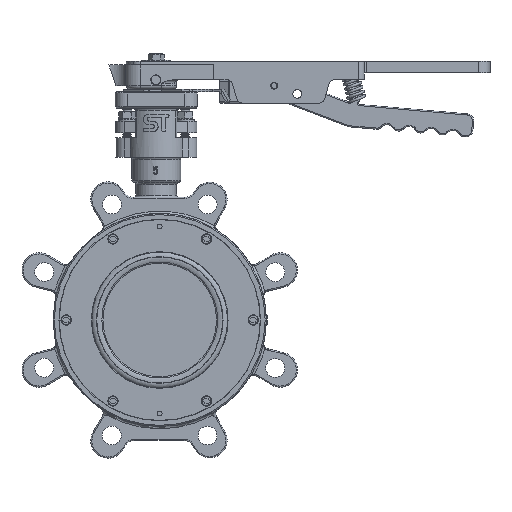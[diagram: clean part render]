
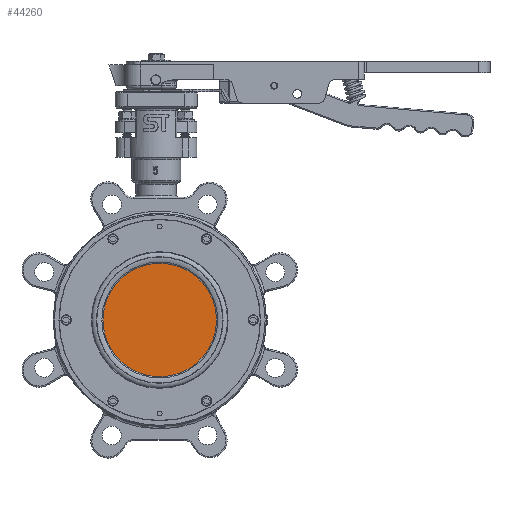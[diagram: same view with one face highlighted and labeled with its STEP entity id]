
A CAD part, front view. The second image highlights one B-rep face of the part: STEP entity #44260.
In plain terms, the highlighted planar face has unit normal (0, -1, 0).
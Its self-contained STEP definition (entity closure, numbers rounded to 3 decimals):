
#44260 = ADVANCED_FACE('',(#44261),#44274,.F.);
#44261 = FACE_BOUND('',#44262,.T.);
#44262 = EDGE_LOOP('',(#44263));
#44263 = ORIENTED_EDGE('',*,*,#44264,.F.);
#44264 = EDGE_CURVE('',#44265,#44265,#44267,.T.);
#44265 = VERTEX_POINT('',#44266);
#44266 = CARTESIAN_POINT('',(269.094,0.729,211.62));
#44267 = SURFACE_CURVE('',#44268,(#44273),.PCURVE_S1.);
#44268 = CIRCLE('',#44269,1.931);
#44269 = AXIS2_PLACEMENT_3D('',#44270,#44271,#44272);
#44270 = CARTESIAN_POINT('',(271.025,0.729,211.62));
#44271 = DIRECTION('',(0.,1.,0.));
#44272 = DIRECTION('',(-1.,0.,0.));
#44273 = PCURVE('',#44274,#44279);
#44274 = PLANE('',#44275);
#44275 = AXIS2_PLACEMENT_3D('',#44276,#44277,#44278);
#44276 = CARTESIAN_POINT('',(271.025,0.729,211.62));
#44277 = DIRECTION('',(0.,1.,0.));
#44278 = DIRECTION('',(-1.,0.,0.));
#44279 = DEFINITIONAL_REPRESENTATION('',(#44280),#44284);
#44280 = CIRCLE('',#44281,1.931);
#44281 = AXIS2_PLACEMENT_2D('',#44282,#44283);
#44282 = CARTESIAN_POINT('',(0.,0.));
#44283 = DIRECTION('',(1.,0.));
#44284 = ( GEOMETRIC_REPRESENTATION_CONTEXT(2) 
PARAMETRIC_REPRESENTATION_CONTEXT() REPRESENTATION_CONTEXT('2D SPACE',''
  ) );
